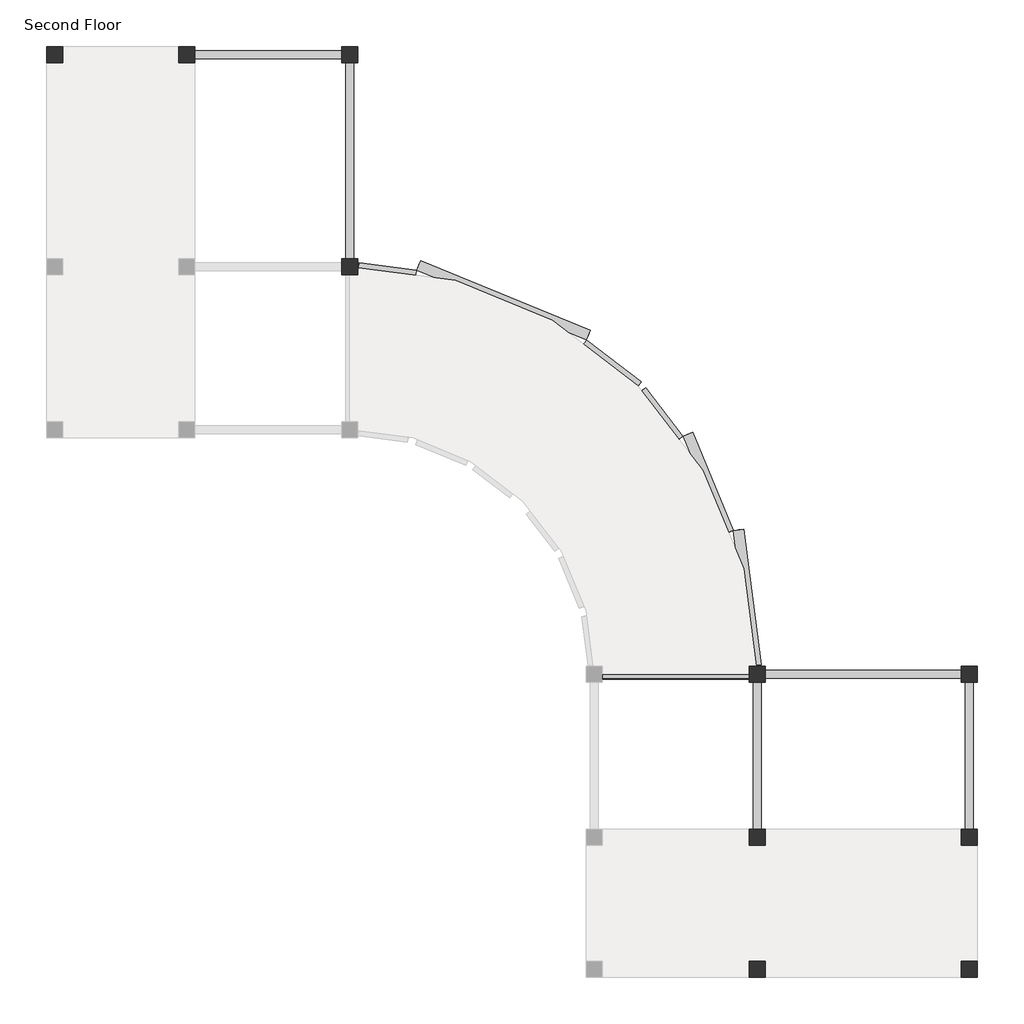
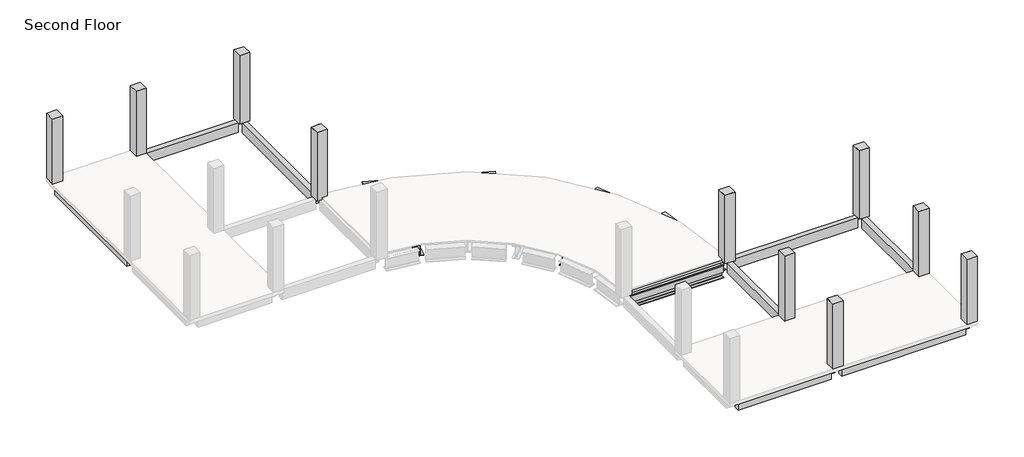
# One storey, part 2 of 2: 26 beams, 20 columns.
"""IFC4 building model written with IfcOpenShell, lengths in millimetres."""

import ifcopenshell
import ifcopenshell.guid

model = None  # the IFC model being written
_history = None  # IfcOwnerHistory: only IFC2X3 demands one
_inside = {}  # id of a spatial element -> (the spatial element, [elements in it])
_under = {}  # id of a project, library or spatial element -> (it, [spatial elements below it])
_declared = {}  # id of a project -> (the project, [libraries it declares])
_typed = {}  # id of a type object -> (the type object, [elements of that type])
_made_of = {}  # id of a material, layer set ... -> (it, [elements and type objects made of it])


def new_model(schema):
    """Start an empty IFC model of exactly this schema.

    Asked for "IFC4X3", IfcOpenShell would pick the latest addendum, in which some entities
    have other attributes; the version numbers below select the first issue.
    IFC2X3 requires an IfcOwnerHistory on every rooted entity: one is made here for all.
    """
    global model, _history
    if schema == "IFC4X3":
        model = ifcopenshell.file(schema_version=(4, 3, 0, 0))
    else:
        model = ifcopenshell.file(schema=schema)
    _inside.clear()
    _under.clear()
    _declared.clear()
    _typed.clear()
    _made_of.clear()
    _history = None
    if model.schema == "IFC2X3":
        org = make("IfcOrganization", Name="unknown")
        user = make(
            "IfcPersonAndOrganization",
            ThePerson=make("IfcPerson", FamilyName="unknown"),
            TheOrganization=org,
        )
        app = make(
            "IfcApplication",
            ApplicationDeveloper=org,
            Version="unknown",
            ApplicationFullName="unknown",
            ApplicationIdentifier="unknown",
        )
        _history = make(
            "IfcOwnerHistory",
            OwningUser=user,
            OwningApplication=app,
            ChangeAction="ADDED",
            CreationDate=0,
        )
    return model


def make(cls, **values):
    """One entity of the class cls with the attributes given. An attribute that is None is left unset."""
    return model.create_entity(
        cls, **{name: value for name, value in values.items() if value is not None}
    )


def rooted(cls, **values):
    """An entity with a GlobalId (a new one), such as an element, a storey or a relation."""
    return make(cls, GlobalId=ifcopenshell.guid.new(), OwnerHistory=_history, **values)


def si_unit(unit_type, name, prefix=None):
    """IfcSIUnit, for example si_unit("LENGTHUNIT", "METRE", prefix="MILLI")."""
    return make("IfcSIUnit", UnitType=unit_type, Prefix=prefix, Name=name)


def assignment(units):
    """IfcUnitAssignment: the units of a project."""
    return None if units is None else make("IfcUnitAssignment", Units=units)


def point(xyz):
    """IfcCartesianPoint."""
    return None if xyz is None else make("IfcCartesianPoint", Coordinates=xyz)


def direction(xyz):
    """IfcDirection."""
    return None if xyz is None else make("IfcDirection", DirectionRatios=xyz)


def frame(location, z_axis=None, x_axis=None):
    """IfcAxis2Placement3D, a coordinate frame: its origin and axes. An axis left out is left unset."""
    return make(
        "IfcAxis2Placement3D",
        Location=point(location),
        Axis=direction(z_axis),
        RefDirection=direction(x_axis),
    )


def frame_2d(location, x_axis=None):
    """IfcAxis2Placement2D, a coordinate frame in the plane: its origin and x axis."""
    return make(
        "IfcAxis2Placement2D", Location=point(location), RefDirection=direction(x_axis)
    )


def origin():
    """The frame at (0, 0, 0) with its axes left unset."""
    return frame((0.0, 0.0, 0.0))


def place(relative_to, where):
    """IfcLocalPlacement: puts the frame where relative to a parent placement (None: the world)."""
    return make(
        "IfcLocalPlacement", PlacementRelTo=relative_to, RelativePlacement=where
    )


def context(
    kind, dimensions, precision=None, world=None, true_north=None, identifier=None
):
    """IfcGeometricRepresentationContext, for example the 3D "Model" context."""
    return make(
        "IfcGeometricRepresentationContext",
        ContextIdentifier=identifier,
        ContextType=kind,
        CoordinateSpaceDimension=dimensions,
        Precision=precision,
        WorldCoordinateSystem=world,
        TrueNorth=true_north,
    )


def project(units=None, contexts=None):
    """IfcProject with its units and contexts."""
    return rooted(
        "IfcProject",
        Name="project",
        RepresentationContexts=contexts,
        UnitsInContext=assignment(units),
    )


def spatial(cls, under=None, at=None, **own):
    """A site, building, storey or space (cls), placed at a placement, below another one or the project."""
    s = rooted(cls, ObjectPlacement=at, **own)
    if under is not None:
        _under.setdefault(under.id(), (under, []))[1].append(s)
    return s


def polyline(points):
    """IfcPolyline through the points."""
    return make("IfcPolyline", Points=[point(p) for p in points])


def circle_curve(where, radius):
    """IfcCircle in the frame where."""
    return make("IfcCircle", Position=where, Radius=radius)


def trimmed(basis, trim1, trim2, sense, master):
    """IfcTrimmedCurve: the piece of a basis curve between two trims."""
    return make(
        "IfcTrimmedCurve",
        BasisCurve=basis,
        Trim1=trim1,
        Trim2=trim2,
        SenseAgreement=sense,
        MasterRepresentation=master,
    )


def segment(curve, same_sense, transition):
    """IfcCompositeCurveSegment."""
    return make(
        "IfcCompositeCurveSegment",
        Transition=transition,
        SameSense=same_sense,
        ParentCurve=curve,
    )


def composite_curve(segments, self_intersect=None):
    """IfcCompositeCurve: segments joined end to end."""
    return make("IfcCompositeCurve", Segments=segments, SelfIntersect=self_intersect)


def outline(outer, holes=None, kind="AREA"):
    """IfcArbitraryClosedProfileDef: a profile drawn as a closed curve; with holes, ...WithVoids."""
    if holes is None:
        return make("IfcArbitraryClosedProfileDef", ProfileType=kind, OuterCurve=outer)
    return make(
        "IfcArbitraryProfileDefWithVoids",
        ProfileType=kind,
        OuterCurve=outer,
        InnerCurves=holes,
    )


def extrude(swept, where, along, depth):
    """IfcExtrudedAreaSolid: the profile swept, set in the frame where, extruded along a direction by depth."""
    return make(
        "IfcExtrudedAreaSolid",
        SweptArea=swept,
        Position=where,
        ExtrudedDirection=direction(along),
        Depth=depth,
    )


def faces_of(points, faces, orient=None, outer=None):
    """IfcFace entities. A face is a list of loops; a loop is a list of indices into points, from 0.

    orient and outer hold one flag for each loop. By default every Orientation is true, the
    first loop of a face is its IfcFaceOuterBound and the others are IfcFaceBound.
    """
    made = []
    for i, loops in enumerate(faces):
        bounds = []
        for j, loop in enumerate(loops):
            is_outer = j == 0 if outer is None else outer[i][j]
            bounds.append(
                make(
                    "IfcFaceOuterBound" if is_outer else "IfcFaceBound",
                    Bound=make("IfcPolyLoop", Polygon=[points[k] for k in loop]),
                    Orientation=True if orient is None else orient[i][j],
                )
            )
        made.append(make("IfcFace", Bounds=bounds))
    return made


def faceted_brep(points, faces, orient=None, outer=None, voids=None):
    """IfcFacetedBrep: a solid bounded by flat faces; with voids (closed shells), ...WithVoids."""
    shared = [point(p) for p in points]
    hull = make("IfcClosedShell", CfsFaces=faces_of(shared, faces, orient, outer))
    if voids is None:
        return make("IfcFacetedBrep", Outer=hull)
    return make(
        "IfcFacetedBrepWithVoids",
        Outer=hull,
        Voids=[
            make(cls, CfsFaces=faces_of(shared, fs, o, b)) for cls, fs, o, b in voids
        ],
    )


def shape(context_of_items, identifier, shape_type, items):
    """IfcShapeRepresentation: the items that make up one representation, for example the "Body"."""
    return make(
        "IfcShapeRepresentation",
        ContextOfItems=context_of_items,
        RepresentationIdentifier=identifier,
        RepresentationType=shape_type,
        Items=items,
    )


def source(mapping_origin, context_of_items, identifier, shape_type, items):
    """IfcRepresentationMap: a shape defined once, which mapped items show again and again."""
    return make(
        "IfcRepresentationMap",
        MappingOrigin=mapping_origin,
        MappedRepresentation=shape(context_of_items, identifier, shape_type, items),
    )


def transform(
    local_origin,
    x_axis=None,
    y_axis=None,
    z_axis=None,
    scale=None,
    scale2=None,
    scale3=None,
    uniform=True,
):
    """IfcCartesianTransformationOperator3D, or its non-uniform kind. x_axis, y_axis, z_axis: its Axis1, 2, 3."""
    if uniform:
        return make(
            "IfcCartesianTransformationOperator3D",
            Axis1=direction(x_axis),
            Axis2=direction(y_axis),
            LocalOrigin=point(local_origin),
            Scale=scale,
            Axis3=direction(z_axis),
        )
    return make(
        "IfcCartesianTransformationOperator3DnonUniform",
        Axis1=direction(x_axis),
        Axis2=direction(y_axis),
        LocalOrigin=point(local_origin),
        Scale=scale,
        Axis3=direction(z_axis),
        Scale2=scale2,
        Scale3=scale3,
    )


def mapped(mapping_source, mapping_target):
    """IfcMappedItem: shows the shape of a source again, moved by a transform."""
    return make(
        "IfcMappedItem", MappingSource=mapping_source, MappingTarget=mapping_target
    )


def made_of(thing, what):
    """Note that an element or type object is made of a material, layer set ...; save() writes the relation."""
    if what is not None:
        _made_of.setdefault(what.id(), (what, []))[1].append(thing)
    return thing


def element(
    cls,
    number,
    at=None,
    inside=None,
    cuts=None,
    type_object=None,
    material=None,
    context=None,
    identifier="Body",
    shape_type=None,
    held_by="IfcProductDefinitionShape",
    body=None,
    shapes=None,
    **own,
):
    """One element of the class cls, such as IfcWall. Its Tag is "e" and its number.

    at: its placement. inside: the storey or other place that contains it. cuts: it is an
    opening in that element (IfcRelVoidsElement). A single representation is given by context,
    identifier, shape_type and body (its items); several are given by shapes. held_by: the class
    of the entity that holds the representations. save() writes the other relations.
    """
    e = rooted(cls, Tag="e%d" % number, ObjectPlacement=at, **own)
    if body is not None:
        shapes = [shape(context, identifier, shape_type, body)]
    if shapes is not None:
        e.Representation = make(held_by, Representations=shapes)
    if inside is not None:
        _inside.setdefault(inside.id(), (inside, []))[1].append(e)
    if cuts is not None:
        rooted(
            "IfcRelVoidsElement", RelatingBuildingElement=cuts, RelatedOpeningElement=e
        )
    if type_object is not None:
        _typed.setdefault(type_object.id(), (type_object, []))[1].append(e)
    return made_of(e, material)


def aggregate(whole, parts):
    """IfcRelAggregates: a whole, such as a stair, and the parts it consists of."""
    return rooted("IfcRelAggregates", RelatingObject=whole, RelatedObjects=parts)


def save(model, path):
    """Write the relations noted so far, then the file.

    IfcRelAggregates (storeys below a building ...), IfcRelContainedInSpatialStructure (elements
    in a storey), IfcRelDefinesByType, IfcRelAssociatesMaterial and IfcRelDeclares: one each for
    every whole, place, type object, material and project.
    """
    for whole, parts in _under.values():
        aggregate(whole, parts)
    for where, things in _inside.values():
        rooted(
            "IfcRelContainedInSpatialStructure",
            RelatedElements=things,
            RelatingStructure=where,
        )
    for kind, things in _typed.values():
        rooted("IfcRelDefinesByType", RelatedObjects=things, RelatingType=kind)
    for what, things in _made_of.values():
        rooted("IfcRelAssociatesMaterial", RelatedObjects=things, RelatingMaterial=what)
    for by, libraries in _declared.values():
        rooted("IfcRelDeclares", RelatingContext=by, RelatedDefinitions=libraries)
    model.write(path)


def w760x350_97f56e91(model_context):
    return source(origin(), model_context, "Body", "SweptSolid", [
        extrude(outline(composite_curve([segment(polyline([(192.0, -359.4), (192.0, -397.5), (-192.0, -397.5), (-192.0, -359.4), (-32.75, -359.4)]), True, "CONTINUOUS"), segment(trimmed(circle_curve(frame_2d((-32.75, -337.2)), 22.2), [point((-32.75, -359.4))], [point((-10.55, -337.2))], True, "CARTESIAN"), True, "CONTINUOUS"), segment(polyline([(-10.55, -337.2), (-10.55, 337.2)]), True, "CONTINUOUS"), segment(trimmed(circle_curve(frame_2d((-32.75, 337.2)), 22.2), [point((-10.55, 337.2))], [point((-32.75, 359.4))], True, "CARTESIAN"), True, "CONTINUOUS"), segment(polyline([(-32.75, 359.4), (-192.0, 359.4), (-192.0, 397.5), (192.0, 397.5), (192.0, 359.4), (32.75, 359.4)]), True, "CONTINUOUS"), segment(trimmed(circle_curve(frame_2d((32.75, 337.2)), 22.2), [point((32.75, 359.4))], [point((10.55, 337.2))], True, "CARTESIAN"), True, "CONTINUOUS"), segment(polyline([(10.55, 337.2), (10.55, -337.2)]), True, "CONTINUOUS"), segment(trimmed(circle_curve(frame_2d((32.75, -337.2)), 22.2), [point((10.55, -337.2))], [point((32.75, -359.4))], True, "CARTESIAN"), True, "CONTINUOUS"), segment(polyline([(32.75, -359.4), (192.0, -359.4)]), True, "CONTINUOUS")], self_intersect=False)), frame((-3447.6039591, 0.0, 0.0), z_axis=(1.0, 0.0, 0.0), x_axis=(0.0, 1.0, 0.0)), (0.0, 0.0, 1.0), 3965.7383389),
    ])


def w760x350_76114712(model_context):
    return source(origin(), model_context, "Body", "SweptSolid", [
        extrude(outline(composite_curve([segment(polyline([(192.0, -359.4), (192.0, -397.5), (-192.0, -397.5), (-192.0, -359.4), (-32.75, -359.4)]), True, "CONTINUOUS"), segment(trimmed(circle_curve(frame_2d((-32.75, -337.2)), 22.2), [point((-32.75, -359.4))], [point((-10.55, -337.2))], True, "CARTESIAN"), True, "CONTINUOUS"), segment(polyline([(-10.55, -337.2), (-10.55, 337.2)]), True, "CONTINUOUS"), segment(trimmed(circle_curve(frame_2d((-32.75, 337.2)), 22.2), [point((-10.55, 337.2))], [point((-32.75, 359.4))], True, "CARTESIAN"), True, "CONTINUOUS"), segment(polyline([(-32.75, 359.4), (-192.0, 359.4), (-192.0, 397.5), (192.0, 397.5), (192.0, 359.4), (32.75, 359.4)]), True, "CONTINUOUS"), segment(trimmed(circle_curve(frame_2d((32.75, 337.2)), 22.2), [point((32.75, 359.4))], [point((10.55, 337.2))], True, "CARTESIAN"), True, "CONTINUOUS"), segment(polyline([(10.55, 337.2), (10.55, -337.2)]), True, "CONTINUOUS"), segment(trimmed(circle_curve(frame_2d((32.75, -337.2)), 22.2), [point((10.55, -337.2))], [point((32.75, -359.4))], True, "CARTESIAN"), True, "CONTINUOUS"), segment(polyline([(32.75, -359.4), (192.0, -359.4)]), True, "CONTINUOUS")], self_intersect=False)), frame((-1757.5851295, 0.0, 0.0), z_axis=(1.0, 0.0, 0.0), x_axis=(0.0, 1.0, 0.0)), (0.0, 0.0, 1.0), 2275.7195093),
    ])


def w760x350_95a3d9c9(model_context):
    return source(origin(), model_context, "Body", "SweptSolid", [
        extrude(outline(composite_curve([segment(polyline([(192.0, -359.4), (192.0, -397.5), (-192.0, -397.5), (-192.0, -359.4), (-32.75, -359.4)]), True, "CONTINUOUS"), segment(trimmed(circle_curve(frame_2d((-32.75, -337.2)), 22.2), [point((-32.75, -359.4))], [point((-10.55, -337.2))], True, "CARTESIAN"), True, "CONTINUOUS"), segment(polyline([(-10.55, -337.2), (-10.55, 337.2)]), True, "CONTINUOUS"), segment(trimmed(circle_curve(frame_2d((-32.75, 337.2)), 22.2), [point((-10.55, 337.2))], [point((-32.75, 359.4))], True, "CARTESIAN"), True, "CONTINUOUS"), segment(polyline([(-32.75, 359.4), (-192.0, 359.4), (-192.0, 397.5), (192.0, 397.5), (192.0, 359.4), (32.75, 359.4)]), True, "CONTINUOUS"), segment(trimmed(circle_curve(frame_2d((32.75, 337.2)), 22.2), [point((32.75, 359.4))], [point((10.55, 337.2))], True, "CARTESIAN"), True, "CONTINUOUS"), segment(polyline([(10.55, 337.2), (10.55, -337.2)]), True, "CONTINUOUS"), segment(trimmed(circle_curve(frame_2d((32.75, -337.2)), 22.2), [point((10.55, -337.2))], [point((32.75, -359.4))], True, "CARTESIAN"), True, "CONTINUOUS"), segment(polyline([(32.75, -359.4), (192.0, -359.4)]), True, "CONTINUOUS")], self_intersect=False)), frame((-1648.6532017, 0.0, 0.0), z_axis=(1.0, 0.0, 0.0), x_axis=(0.0, 1.0, 0.0)), (0.0, 0.0, 1.0), 2147.5829882),
    ])


def w760x350_c93c339d(model_context):
    return source(origin(), model_context, "Body", "SweptSolid", [
        extrude(outline(composite_curve([segment(polyline([(192.0, -359.4), (192.0, -397.5), (-192.0, -397.5), (-192.0, -359.4), (-32.75, -359.4)]), True, "CONTINUOUS"), segment(trimmed(circle_curve(frame_2d((-32.75, -337.2)), 22.2), [point((-32.75, -359.4))], [point((-10.55, -337.2))], True, "CARTESIAN"), True, "CONTINUOUS"), segment(polyline([(-10.55, -337.2), (-10.55, 337.2)]), True, "CONTINUOUS"), segment(trimmed(circle_curve(frame_2d((-32.75, 337.2)), 22.2), [point((-10.55, 337.2))], [point((-32.75, 359.4))], True, "CARTESIAN"), True, "CONTINUOUS"), segment(polyline([(-32.75, 359.4), (-192.0, 359.4), (-192.0, 397.5), (192.0, 397.5), (192.0, 359.4), (32.75, 359.4)]), True, "CONTINUOUS"), segment(trimmed(circle_curve(frame_2d((32.75, 337.2)), 22.2), [point((32.75, 359.4))], [point((10.55, 337.2))], True, "CARTESIAN"), True, "CONTINUOUS"), segment(polyline([(10.55, 337.2), (10.55, -337.2)]), True, "CONTINUOUS"), segment(trimmed(circle_curve(frame_2d((32.75, -337.2)), 22.2), [point((10.55, -337.2))], [point((32.75, -359.4))], True, "CARTESIAN"), True, "CONTINUOUS"), segment(polyline([(32.75, -359.4), (192.0, -359.4)]), True, "CONTINUOUS")], self_intersect=False)), frame((-3436.6555898, 0.0, 0.0), z_axis=(1.0, 0.0, 0.0), x_axis=(0.0, 1.0, 0.0)), (0.0, 0.0, 1.0), 6854.1065863),
    ])


def w760x350_c870c244(model_context):
    return source(origin(), model_context, "Body", "SweptSolid", [
        extrude(outline(composite_curve([segment(polyline([(192.0, -359.4), (192.0, -397.5), (-192.0, -397.5), (-192.0, -359.4), (-32.75, -359.4)]), True, "CONTINUOUS"), segment(trimmed(circle_curve(frame_2d((-32.75, -337.2)), 22.2), [point((-32.75, -359.4))], [point((-10.55, -337.2))], True, "CARTESIAN"), True, "CONTINUOUS"), segment(polyline([(-10.55, -337.2), (-10.55, 337.2)]), True, "CONTINUOUS"), segment(trimmed(circle_curve(frame_2d((-32.75, 337.2)), 22.2), [point((-10.55, 337.2))], [point((-32.75, 359.4))], True, "CARTESIAN"), True, "CONTINUOUS"), segment(polyline([(-32.75, 359.4), (-192.0, 359.4), (-192.0, 397.5), (192.0, 397.5), (192.0, 359.4), (32.75, 359.4)]), True, "CONTINUOUS"), segment(trimmed(circle_curve(frame_2d((32.75, 337.2)), 22.2), [point((32.75, 359.4))], [point((10.55, 337.2))], True, "CARTESIAN"), True, "CONTINUOUS"), segment(polyline([(10.55, 337.2), (10.55, -337.2)]), True, "CONTINUOUS"), segment(trimmed(circle_curve(frame_2d((32.75, -337.2)), 22.2), [point((10.55, -337.2))], [point((32.75, -359.4))], True, "CARTESIAN"), True, "CONTINUOUS"), segment(polyline([(32.75, -359.4), (192.0, -359.4)]), True, "CONTINUOUS")], self_intersect=False)), frame((-548.9152104, 0.0, 0.0), z_axis=(1.0, 0.0, 0.0), x_axis=(0.0, 1.0, 0.0)), (0.0, 0.0, 1.0), 2568.9152104),
    ])


def w760x350_85be410d(model_context):
    return source(origin(), model_context, "Body", "SweptSolid", [
        extrude(outline(composite_curve([segment(polyline([(192.0, -359.4), (192.0, -397.5), (-192.0, -397.5), (-192.0, -359.4), (-32.75, -359.4)]), True, "CONTINUOUS"), segment(trimmed(circle_curve(frame_2d((-32.75, -337.2)), 22.2), [point((-32.75, -359.4))], [point((-10.55, -337.2))], True, "CARTESIAN"), True, "CONTINUOUS"), segment(polyline([(-10.55, -337.2), (-10.55, 337.2)]), True, "CONTINUOUS"), segment(trimmed(circle_curve(frame_2d((-32.75, 337.2)), 22.2), [point((-10.55, 337.2))], [point((-32.75, 359.4))], True, "CARTESIAN"), True, "CONTINUOUS"), segment(polyline([(-32.75, 359.4), (-192.0, 359.4), (-192.0, 397.5), (192.0, 397.5), (192.0, 359.4), (32.75, 359.4)]), True, "CONTINUOUS"), segment(trimmed(circle_curve(frame_2d((32.75, 337.2)), 22.2), [point((32.75, 359.4))], [point((10.55, 337.2))], True, "CARTESIAN"), True, "CONTINUOUS"), segment(polyline([(10.55, 337.2), (10.55, -337.2)]), True, "CONTINUOUS"), segment(trimmed(circle_curve(frame_2d((32.75, -337.2)), 22.2), [point((10.55, -337.2))], [point((32.75, -359.4))], True, "CARTESIAN"), True, "CONTINUOUS"), segment(polyline([(32.75, -359.4), (192.0, -359.4)]), True, "CONTINUOUS")], self_intersect=False)), frame((-2605.8, 0.0, 0.0), z_axis=(1.0, 0.0, 0.0), x_axis=(0.0, 1.0, 0.0)), (0.0, 0.0, 1.0), 5422.16596),
    ])


def w760x350_f2c5e80b(model_context):
    return source(origin(), model_context, "Body", "SweptSolid", [
        extrude(outline(composite_curve([segment(polyline([(192.0, -359.4), (192.0, -397.5), (-192.0, -397.5), (-192.0, -359.4), (-32.75, -359.4)]), True, "CONTINUOUS"), segment(trimmed(circle_curve(frame_2d((-32.75, -337.2)), 22.2), [point((-32.75, -359.4))], [point((-10.55, -337.2))], True, "CARTESIAN"), True, "CONTINUOUS"), segment(polyline([(-10.55, -337.2), (-10.55, 337.2)]), True, "CONTINUOUS"), segment(trimmed(circle_curve(frame_2d((-32.75, 337.2)), 22.2), [point((-10.55, 337.2))], [point((-32.75, 359.4))], True, "CARTESIAN"), True, "CONTINUOUS"), segment(polyline([(-32.75, 359.4), (-192.0, 359.4), (-192.0, 397.5), (192.0, 397.5), (192.0, 359.4), (32.75, 359.4)]), True, "CONTINUOUS"), segment(trimmed(circle_curve(frame_2d((32.75, 337.2)), 22.2), [point((32.75, 359.4))], [point((10.55, 337.2))], True, "CARTESIAN"), True, "CONTINUOUS"), segment(polyline([(10.55, 337.2), (10.55, -337.2)]), True, "CONTINUOUS"), segment(trimmed(circle_curve(frame_2d((32.75, -337.2)), 22.2), [point((10.55, -337.2))], [point((32.75, -359.4))], True, "CARTESIAN"), True, "CONTINUOUS"), segment(polyline([(32.75, -359.4), (192.0, -359.4)]), True, "CONTINUOUS")], self_intersect=False)), frame((-3447.6039591, 0.0, 0.0), z_axis=(1.0, 0.0, 0.0), x_axis=(0.0, 1.0, 0.0)), (0.0, 0.0, 1.0), 5096.2571608),
    ])


def w760x350_2a258063(model_context):
    return source(origin(), model_context, "Body", "SweptSolid", [
        extrude(outline(composite_curve([segment(polyline([(192.0, -359.4), (192.0, -397.5), (-192.0, -397.5), (-192.0, -359.4), (-32.75, -359.4)]), True, "CONTINUOUS"), segment(trimmed(circle_curve(frame_2d((-32.75, -337.2)), 22.2), [point((-32.75, -359.4))], [point((-10.55, -337.2))], True, "CARTESIAN"), True, "CONTINUOUS"), segment(polyline([(-10.55, -337.2), (-10.55, 337.2)]), True, "CONTINUOUS"), segment(trimmed(circle_curve(frame_2d((-32.75, 337.2)), 22.2), [point((-10.55, 337.2))], [point((-32.75, 359.4))], True, "CARTESIAN"), True, "CONTINUOUS"), segment(polyline([(-32.75, 359.4), (-192.0, 359.4), (-192.0, 397.5), (192.0, 397.5), (192.0, 359.4), (32.75, 359.4)]), True, "CONTINUOUS"), segment(trimmed(circle_curve(frame_2d((32.75, 337.2)), 22.2), [point((32.75, 359.4))], [point((10.55, 337.2))], True, "CARTESIAN"), True, "CONTINUOUS"), segment(polyline([(10.55, 337.2), (10.55, -337.2)]), True, "CONTINUOUS"), segment(trimmed(circle_curve(frame_2d((32.75, -337.2)), 22.2), [point((10.55, -337.2))], [point((32.75, -359.4))], True, "CARTESIAN"), True, "CONTINUOUS"), segment(polyline([(32.75, -359.4), (192.0, -359.4)]), True, "CONTINUOUS")], self_intersect=False)), frame((-2735.3, 0.0, 0.0), z_axis=(1.0, 0.0, 0.0), x_axis=(0.0, 1.0, 0.0)), (0.0, 0.0, 1.0), 5470.6),
    ])


def w760x350_6f162b3c(model_context):
    return source(origin(), model_context, "Body", "SweptSolid", [
        extrude(outline(composite_curve([segment(polyline([(192.0, -359.4), (192.0, -397.5), (-192.0, -397.5), (-192.0, -359.4), (-32.75, -359.4)]), True, "CONTINUOUS"), segment(trimmed(circle_curve(frame_2d((-32.75, -337.2)), 22.2), [point((-32.75, -359.4))], [point((-10.55, -337.2))], True, "CARTESIAN"), True, "CONTINUOUS"), segment(polyline([(-10.55, -337.2), (-10.55, 337.2)]), True, "CONTINUOUS"), segment(trimmed(circle_curve(frame_2d((-32.75, 337.2)), 22.2), [point((-10.55, 337.2))], [point((-32.75, 359.4))], True, "CARTESIAN"), True, "CONTINUOUS"), segment(polyline([(-32.75, 359.4), (-192.0, 359.4), (-192.0, 397.5), (192.0, 397.5), (192.0, 359.4), (32.75, 359.4)]), True, "CONTINUOUS"), segment(trimmed(circle_curve(frame_2d((32.75, 337.2)), 22.2), [point((32.75, 359.4))], [point((10.55, 337.2))], True, "CARTESIAN"), True, "CONTINUOUS"), segment(polyline([(10.55, 337.2), (10.55, -337.2)]), True, "CONTINUOUS"), segment(trimmed(circle_curve(frame_2d((32.75, -337.2)), 22.2), [point((10.55, -337.2))], [point((32.75, -359.4))], True, "CARTESIAN"), True, "CONTINUOUS"), segment(polyline([(32.75, -359.4), (192.0, -359.4)]), True, "CONTINUOUS")], self_intersect=False)), frame((-37.2999994, 0.0, 0.0), z_axis=(1.0, 0.0, 0.0), x_axis=(0.0, 1.0, 0.0)), (0.0, 0.0, 1.0), 74.5999988),
    ])


model = new_model("IFC4")

# Units and contexts
model_context = context("Model", 3, world=origin())
ifc_project = project(units=[si_unit("LENGTHUNIT", "METRE", prefix="MILLI")], contexts=[model_context])

# Site, building, storey
site = spatial("IfcSite", under=ifc_project)
building = spatial("IfcBuilding", under=site)
storey = spatial("IfcBuildingStorey", under=building, Name="Second Floor", Elevation=3048.0)

# Beams
placement = place(None, origin())
element("IfcBeam", 1, ObjectType="M_Concrete-Rectangular Beam : 300 x 600mm", at=placement, inside=storey, context=model_context, shape_type="SweptSolid", body=[
    extrude(outline(polyline([(-16304.9035319, 4112.1636035), (-16304.9035319, 4412.1636035), (-10808.9035319, 4412.1636035), (-10808.9035319, 4112.1636035), (-16304.9035319, 4112.1636035)])), frame((0.0, 0.0, 2448.0), z_axis=(0.0, 0.0, 1.0), x_axis=(1.0, 0.0, 0.0)), (0.0, 0.0, 1.0), 600.0),
])
element("IfcBeam", 2, ObjectType="M_Concrete-Rectangular Beam : 300 x 600mm", at=placement, inside=storey, context=model_context, shape_type="SweptSolid", body=[
    extrude(outline(polyline([(-21244.300634, 4112.1636035), (-21244.300634, 4412.1636035), (-16904.9035319, 4412.1636035), (-16904.9035319, 4112.1636035), (-21244.300634, 4112.1636035)])), frame((0.0, 0.0, 2448.0), z_axis=(0.0, 0.0, 1.0), x_axis=(1.0, 0.0, 0.0)), (0.0, 0.0, 1.0), 510.0),
])
element("IfcBeam", 3, ObjectType="M_Concrete-Rectangular Beam : 300 x 600mm", at=placement, inside=storey, context=model_context, shape_type="SweptSolid", body=[
    extrude(outline(polyline([(-21394.300634, -3362.8363965), (-21694.300634, -3362.8363965), (-21694.300634, 3962.1636035), (-21394.300634, 3962.1636035), (-21394.300634, -3362.8363965)])), frame((0.0, 0.0, 2448.0), z_axis=(0.0, 0.0, 1.0), x_axis=(1.0, 0.0, 0.0)), (0.0, 0.0, 1.0), 510.0),
])
element("IfcBeam", 4, ObjectType="M_Concrete-Rectangular Beam : 300 x 600mm", at=placement, inside=storey, context=model_context, shape_type="SweptSolid", body=[
    extrude(outline(polyline([(-16454.9035319, -3362.8363965), (-16754.9035319, -3362.8363965), (-16754.9035319, 3962.1636035), (-16454.9035319, 3962.1636035), (-16454.9035319, -3362.8363965)])), frame((0.0, 0.0, 2448.0), z_axis=(0.0, 0.0, 1.0), x_axis=(1.0, 0.0, 0.0)), (0.0, 0.0, 1.0), 510.0),
])
element("IfcBeam", 5, ObjectType="M_Concrete-Rectangular Beam : 300 x 600mm", at=placement, inside=storey, context=model_context, shape_type="SweptSolid", body=[
    extrude(outline(polyline([(-10358.9035319, -3362.8363965), (-10658.9035319, -3362.8363965), (-10658.9035319, 3962.1636035), (-10358.9035319, 3962.1636035), (-10358.9035319, -3362.8363965)])), frame((0.0, 0.0, 2448.0), z_axis=(0.0, 0.0, 1.0), x_axis=(1.0, 0.0, 0.0)), (0.0, 0.0, 1.0), 600.0),
])
element("IfcBeam", 6, ObjectType="M_Concrete-Rectangular Beam : 300 x 600mm", at=placement, inside=storey, context=model_context, shape_type="SweptSolid", body=[
    extrude(outline(polyline([(12806.0964681, -24698.8363965), (12506.0964681, -24698.8363965), (12506.0964681, -19202.8363965), (12806.0964681, -19202.8363965), (12806.0964681, -24698.8363965)])), frame((0.0, 0.0, 2448.0), z_axis=(0.0, 0.0, 1.0), x_axis=(1.0, 0.0, 0.0)), (0.0, 0.0, 1.0), 600.0),
])
element("IfcBeam", 7, ObjectType="M_Concrete-Rectangular Beam : 300 x 600mm", at=placement, inside=storey, context=model_context, shape_type="SweptSolid", body=[
    extrude(outline(polyline([(12806.0964681, -29638.2334986), (12506.0964681, -29638.2334986), (12506.0964681, -25298.8363965), (12806.0964681, -25298.8363965), (12806.0964681, -29638.2334986)])), frame((0.0, 0.0, 2448.0), z_axis=(0.0, 0.0, 1.0), x_axis=(1.0, 0.0, 0.0)), (0.0, 0.0, 1.0), 510.0),
])
element("IfcBeam", 8, ObjectType="M_Concrete-Rectangular Beam : 300 x 600mm", at=placement, inside=storey, context=model_context, shape_type="SweptSolid", body=[
    extrude(outline(polyline([(4881.0964681, -24698.8363965), (4581.0964681, -24698.8363965), (4581.0964681, -19202.8363965), (4881.0964681, -19202.8363965), (4881.0964681, -24698.8363965)])), frame((0.0, 0.0, 2448.0), z_axis=(0.0, 0.0, 1.0), x_axis=(1.0, 0.0, 0.0)), (0.0, 0.0, 1.0), 600.0),
])
element("IfcBeam", 9, ObjectType="M_Concrete-Rectangular Beam : 300 x 600mm", at=placement, inside=storey, context=model_context, shape_type="SweptSolid", body=[
    extrude(outline(polyline([(4881.0964681, -29638.2334986), (4581.0964681, -29638.2334986), (4581.0964681, -25298.8363965), (4881.0964681, -25298.8363965), (4881.0964681, -29638.2334986)])), frame((0.0, 0.0, 2448.0), z_axis=(0.0, 0.0, 1.0), x_axis=(1.0, 0.0, 0.0)), (0.0, 0.0, 1.0), 510.0),
])
element("IfcBeam", 10, ObjectType="M_Concrete-Rectangular Beam : 300 x 600mm", at=placement, inside=storey, context=model_context, shape_type="SweptSolid", body=[
    extrude(outline(polyline([(5031.0964681, -30088.2334986), (5031.0964681, -29788.2334986), (12356.0964681, -29788.2334986), (12356.0964681, -30088.2334986), (5031.0964681, -30088.2334986)])), frame((0.0, 0.0, 2448.0), z_axis=(0.0, 0.0, 1.0), x_axis=(1.0, 0.0, 0.0)), (0.0, 0.0, 1.0), 510.0),
])
element("IfcBeam", 11, ObjectType="M_Concrete-Rectangular Beam : 300 x 600mm", at=placement, inside=storey, context=model_context, shape_type="SweptSolid", body=[
    extrude(outline(polyline([(-1064.9035319, -30088.2334986), (-1064.9035319, -29788.2334986), (4431.0964681, -29788.2334986), (4431.0964681, -30088.2334986), (-1064.9035319, -30088.2334986)])), frame((0.0, 0.0, 2448.0), z_axis=(0.0, 0.0, 1.0), x_axis=(1.0, 0.0, 0.0)), (0.0, 0.0, 1.0), 510.0),
])
element("IfcBeam", 12, ObjectType="M_Concrete-Rectangular Beam : 300 x 600mm", at=placement, inside=storey, context=model_context, shape_type="SweptSolid", body=[
    extrude(outline(polyline([(-1064.9035319, -25148.8363965), (-1064.9035319, -24848.8363965), (4431.0964681, -24848.8363965), (4431.0964681, -25148.8363965), (-1064.9035319, -25148.8363965)])), frame((0.0, 0.0, 2448.0), z_axis=(0.0, 0.0, 1.0), x_axis=(1.0, 0.0, 0.0)), (0.0, 0.0, 1.0), 510.0),
])
element("IfcBeam", 13, ObjectType="M_Concrete-Rectangular Beam : 300 x 600mm", at=placement, inside=storey, context=model_context, shape_type="SweptSolid", body=[
    extrude(outline(polyline([(5031.0964681, -25148.8363965), (5031.0964681, -24848.8363965), (12356.0964681, -24848.8363965), (12356.0964681, -25148.8363965), (5031.0964681, -25148.8363965)])), frame((0.0, 0.0, 2448.0), z_axis=(0.0, 0.0, 1.0), x_axis=(1.0, 0.0, 0.0)), (0.0, 0.0, 1.0), 510.0),
])
element("IfcBeam", 14, ObjectType="M_Concrete-Rectangular Beam : 300 x 600mm", at=placement, inside=storey, context=model_context, shape_type="SweptSolid", body=[
    extrude(outline(polyline([(-1064.9035319, -19052.8363965), (-1064.9035319, -18752.8363965), (4431.0964681, -18752.8363965), (4431.0964681, -19052.8363965), (-1064.9035319, -19052.8363965)])), frame((0.0, 0.0, 2448.0), z_axis=(0.0, 0.0, 1.0), x_axis=(1.0, 0.0, 0.0)), (0.0, 0.0, 1.0), 600.0),
])
element("IfcBeam", 15, ObjectType="M_Concrete-Rectangular Beam : 300 x 600mm", at=placement, inside=storey, context=model_context, shape_type="SweptSolid", body=[
    extrude(outline(polyline([(5031.0964681, -19052.8363965), (5031.0964681, -18752.8363965), (12356.0964681, -18752.8363965), (12356.0964681, -19052.8363965), (5031.0964681, -19052.8363965)])), frame((0.0, 0.0, 2448.0), z_axis=(0.0, 0.0, 1.0), x_axis=(1.0, 0.0, 0.0)), (0.0, 0.0, 1.0), 600.0),
])
w760x350_shape = w760x350_97f56e91(model_context)
element("IfcBeam", 16, ObjectType="M_W-Wide Flange : W760X350", at=placement, inside=storey, context=model_context, shape_type="MappedRepresentation", body=[
    mapped(w760x350_shape, transform((3450.5648413, -13120.6352728, 2523.5), x_axis=(0.3826834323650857, -0.9238795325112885, 0.0), y_axis=(0.9238795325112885, 0.3826834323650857, 0.0), z_axis=(0.0, 0.0, 1.0))),
])
w760x350_2_shape = w760x350_76114712(model_context)
element("IfcBeam", 17, ObjectType="M_W-Wide Flange : W760X350", at=placement, inside=storey, context=model_context, shape_type="MappedRepresentation", body=[
    mapped(w760x350_2_shape, transform((1478.3637176, -9704.6827239, 2523.5), x_axis=(0.6087614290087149, -0.7933533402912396, 0.0), y_axis=(0.7933533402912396, 0.6087614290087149, 0.0), z_axis=(0.0, 0.0, 1.0))),
])
w760x350_3_shape = w760x350_95a3d9c9(model_context)
element("IfcBeam", 18, ObjectType="M_W-Wide Flange : W760X350", at=placement, inside=storey, context=model_context, shape_type="MappedRepresentation", body=[
    mapped(w760x350_3_shape, transform((-8536.7024082, -3922.4816002, 2523.5), x_axis=(0.9914448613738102, -0.1305261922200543, 0.0), y_axis=(0.1305261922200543, 0.9914448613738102, 0.0), z_axis=(0.0, 0.0, 1.0))),
])
w760x350_4_shape = w760x350_c93c339d(model_context)
element("IfcBeam", 19, ObjectType="M_W-Wide Flange : W760X350", at=placement, inside=storey, context=model_context, shape_type="MappedRepresentation", body=[
    mapped(w760x350_4_shape, transform((-4752.0478576, -4925.7348849, 2523.5), x_axis=(0.9251619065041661, -0.37957271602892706, 0.0), y_axis=(0.37957271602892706, 0.9251619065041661, 0.0), z_axis=(0.0, 0.0, 1.0))),
])
w760x350_5_shape = w760x350_c870c244(model_context)
element("IfcBeam", 20, ObjectType="M_W-Wide Flange : W760X350", at=placement, inside=storey, context=model_context, shape_type="MappedRepresentation", body=[
    mapped(w760x350_5_shape, transform((-1332.8922259, -6893.6419593, 2523.5), x_axis=(0.7953971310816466, -0.6060886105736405, 0.0), y_axis=(0.6060886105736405, 0.7953971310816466, 0.0), z_axis=(0.0, 0.0, 1.0))),
])
w760x350_6_shape = w760x350_85be410d(model_context)
element("IfcBeam", 21, ObjectType="M_W-Wide Flange : W760X350", at=placement, inside=storey, context=model_context, shape_type="MappedRepresentation", body=[
    mapped(w760x350_6_shape, transform((-7353.381734, -7126.2687224, 2523.5), x_axis=(0.258819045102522, 0.965925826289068, 0.0), y_axis=(-0.965925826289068, 0.258819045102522, 0.0), z_axis=(0.0, 0.0, 1.0))),
])
element("IfcBeam", 22, ObjectType="M_W-Wide Flange : W760X350", at=placement, inside=storey, context=model_context, shape_type="MappedRepresentation", body=[
    mapped(w760x350_6_shape, transform((49.6781911, -12806.8363965, 2523.5), x_axis=(0.8660254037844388, 0.49999999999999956, 0.0), y_axis=(-0.49999999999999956, 0.8660254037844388, 0.0), z_axis=(0.0, 0.0, 1.0))),
])
element("IfcBeam", 23, ObjectType="M_W-Wide Flange : W760X350", at=placement, inside=storey, context=model_context, shape_type="MappedRepresentation", body=[
    mapped(w760x350_6_shape, transform((1267.6641423, -15747.3145986, 2523.5), x_axis=(0.9659258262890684, 0.2588190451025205, 0.0), y_axis=(-0.2588190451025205, 0.9659258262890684, 0.0), z_axis=(0.0, 0.0, 1.0))),
])
w760x350_7_shape = w760x350_f2c5e80b(model_context)
element("IfcBeam", 24, ObjectType="M_W-Wide Flange : W760X350", at=placement, inside=storey, context=model_context, shape_type="MappedRepresentation", body=[
    mapped(w760x350_7_shape, transform((4471.4512645, -16930.6352728, 2523.5), x_axis=(0.1305261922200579, -0.9914448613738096, 0.0), y_axis=(0.9914448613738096, 0.1305261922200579, 0.0), z_axis=(0.0, 0.0, 1.0))),
])
w760x350_8_shape = w760x350_2a258063(model_context)
element("IfcBeam", 25, ObjectType="M_W-Wide Flange : W760X350", at=placement, inside=storey, context=model_context, shape_type="MappedRepresentation", body=[
    mapped(w760x350_8_shape, transform((1683.0964681, -18902.8363965, 2523.5), x_axis=(-1.0, 0.0, 0.0), y_axis=(0.0, -1.0, 0.0), z_axis=(0.0, 0.0, 1.0))),
])
w760x350_9_shape = w760x350_6f162b3c(model_context)
element("IfcBeam", 26, ObjectType="M_W-Wide Flange : W760X350", at=placement, inside=storey, context=model_context, shape_type="MappedRepresentation", body=[
    mapped(w760x350_9_shape, transform((-2853.5481928, -5739.9645819, 2523.5), x_axis=(0.7071067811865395, -0.7071067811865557, 0.0), y_axis=(0.7071067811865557, 0.7071067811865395, 0.0), z_axis=(0.0, 0.0, 1.0))),
])

# Columns
element("IfcColumn", 27, ObjectType="M_Concrete-Rectangular-Column : 600 x 600mm", at=placement, inside=storey, context=model_context, shape_type="SweptSolid", body=[
    extrude(outline(polyline([(-21844.300634, 3962.1636035), (-21844.300634, 4562.1636035), (-21244.300634, 4562.1636035), (-21244.300634, 3962.1636035), (-21844.300634, 3962.1636035)])), frame((0.0, 0.0, 3168.0), z_axis=(0.0, 0.0, 1.0), x_axis=(1.0, 0.0, 0.0)), (0.0, 0.0, 1.0), 4057.0),
])
element("IfcColumn", 28, ObjectType="M_Concrete-Rectangular-Column : 600 x 600mm", at=placement, inside=storey, context=model_context, shape_type="SweptSolid", body=[
    extrude(outline(polyline([(-16904.9035319, 3962.1636035), (-16904.9035319, 4562.1636035), (-16304.9035319, 4562.1636035), (-16304.9035319, 3962.1636035), (-16904.9035319, 3962.1636035)])), frame((0.0, 0.0, 3168.0), z_axis=(0.0, 0.0, 1.0), x_axis=(1.0, 0.0, 0.0)), (0.0, 0.0, 1.0), 4057.0),
])
element("IfcColumn", 29, ObjectType="M_Concrete-Rectangular-Column : 600 x 600mm", at=placement, inside=storey, context=model_context, shape_type="Brep", body=[
    faceted_brep([(-10808.9035319, -3962.8363965, 3048.0), (-10808.9035319, -3362.8363965, 3048.0), (-10208.9035319, -3362.8363965, 3048.0), (-10208.9035319, -3962.8363965, 3048.0), (-10808.9035319, -3962.8363965, 7315.0), (-10808.9035319, -3362.8363965, 7315.0), (-10208.9035319, -3362.8363965, 7315.0), (-10208.9035319, -3962.8363965, 7315.0), (-10208.9035319, -3962.8363965, 3168.0), (-10208.9035319, -3702.3321458, 3168.0), (-10208.9035319, -3702.3321458, 3093.0), (-10208.9035319, -3962.8363965, 3093.0), (-10508.9035319, -3962.8363965, 3093.0), (-10508.9035319, -3962.8363965, 3168.0), (-10508.9035319, -3662.8363965, 3093.0), (-10508.9035319, -3662.8363965, 3168.0)], [[[0, 1, 2, 3]], [[1, 0, 4, 5]], [[2, 1, 5, 6]], [[3, 2, 6, 7, 8, 9, 10, 11]], [[0, 3, 11, 12, 13, 8, 7, 4]], [[5, 4, 7, 6]], [[14, 12, 11, 10]], [[15, 9, 8, 13]], [[15, 14, 10, 9]], [[14, 15, 13, 12]]]),
])
element("IfcColumn", 30, ObjectType="M_Concrete-Rectangular-Column : 600 x 600mm", at=placement, inside=storey, context=model_context, shape_type="SweptSolid", body=[
    extrude(outline(polyline([(-10808.9035319, 3962.1636035), (-10808.9035319, 4562.1636035), (-10208.9035319, 4562.1636035), (-10208.9035319, 3962.1636035), (-10808.9035319, 3962.1636035)])), frame((0.0, 0.0, 3048.0), z_axis=(0.0, 0.0, 1.0), x_axis=(1.0, 0.0, 0.0)), (0.0, 0.0, 1.0), 4267.0),
])
element("IfcColumn", 31, ObjectType="M_Concrete-Rectangular-Column : 600 x 600mm", at=placement, inside=storey, context=model_context, shape_type="Brep", body=[
    faceted_brep([(-21844.300634, 3962.1636035, 7225.0), (-21844.300634, 4562.1636035, 7225.0), (-21844.300634, 4562.1636035, 3168.0), (-21844.300634, 3962.1636035, 3168.0), (-21244.300634, 4562.1636035, 7225.0), (-21244.300634, 4562.1636035, 3168.0), (-21244.300634, 4412.1636035, 7225.0), (-21244.300634, 4112.1636035, 7225.0), (-21244.300634, 3962.1636035, 7225.0), (-21244.300634, 3962.1636035, 3168.0), (-21394.300634, 3962.1636035, 7225.0), (-21694.300634, 3962.1636035, 7225.0)], [[[0, 1, 2, 3]], [[1, 4, 5, 2]], [[4, 6, 7, 8, 9, 5]], [[8, 10, 11, 0, 3, 9]], [[1, 0, 11, 10, 8, 7, 6, 4]], [[3, 2, 5, 9]]]),
])
element("IfcColumn", 32, ObjectType="M_Concrete-Rectangular-Column : 600 x 600mm", at=placement, inside=storey, context=model_context, shape_type="Brep", body=[
    faceted_brep([(-16904.9035319, 3962.1636035, 7225.0), (-16904.9035319, 4112.1636035, 7225.0), (-16904.9035319, 4412.1636035, 7225.0), (-16904.9035319, 4562.1636035, 7225.0), (-16904.9035319, 4562.1636035, 3168.0), (-16904.9035319, 3962.1636035, 3168.0), (-16304.9035319, 4562.1636035, 7225.0), (-16304.9035319, 4562.1636035, 3168.0), (-16304.9035319, 3962.1636035, 7225.0), (-16304.9035319, 3962.1636035, 3168.0), (-16454.9035319, 3962.1636035, 7225.0), (-16754.9035319, 3962.1636035, 7225.0)], [[[0, 1, 2, 3, 4, 5]], [[3, 6, 7, 4]], [[6, 8, 9, 7]], [[8, 10, 11, 0, 5, 9]], [[3, 2, 1, 0, 11, 10, 8, 6]], [[5, 4, 7, 9]]]),
])
element("IfcColumn", 33, ObjectType="M_Concrete-Rectangular-Column : 600 x 600mm", at=placement, inside=storey, context=model_context, shape_type="Brep", body=[
    faceted_brep([(-10808.9035319, -3962.8363965, 3048.0), (-10808.9035319, -3362.8363965, 3048.0), (-10208.9035319, -3362.8363965, 3048.0), (-10208.9035319, -3962.8363965, 3048.0), (-10808.9035319, -3962.8363965, 7315.0), (-10808.9035319, -3812.8363965, 7315.0), (-10808.9035319, -3512.8363965, 7315.0), (-10808.9035319, -3362.8363965, 7315.0), (-10658.9035319, -3362.8363965, 7315.0), (-10358.9035319, -3362.8363965, 7315.0), (-10208.9035319, -3362.8363965, 7315.0), (-10208.9035319, -3962.8363965, 7315.0), (-10208.9035319, -3962.8363965, 3168.0), (-10208.9035319, -3702.3321458, 3168.0), (-10208.9035319, -3702.3321458, 3093.0), (-10208.9035319, -3962.8363965, 3093.0), (-10508.9035319, -3962.8363965, 3093.0), (-10508.9035319, -3962.8363965, 3168.0), (-10358.9035319, -3962.8363965, 7315.0), (-10658.9035319, -3962.8363965, 7315.0), (-10508.9035319, -3662.8363965, 3093.0), (-10508.9035319, -3662.8363965, 3168.0)], [[[0, 1, 2, 3]], [[1, 0, 4, 5, 6, 7]], [[2, 1, 7, 8, 9, 10]], [[3, 2, 10, 11, 12, 13, 14, 15]], [[0, 3, 15, 16, 17, 12, 11, 18, 19, 4]], [[7, 6, 5, 4, 19, 18, 11, 10, 9, 8]], [[20, 16, 15, 14]], [[21, 13, 12, 17]], [[21, 20, 14, 13]], [[20, 21, 17, 16]]]),
])
element("IfcColumn", 34, ObjectType="M_Concrete-Rectangular-Column : 600 x 600mm", at=placement, inside=storey, context=model_context, shape_type="Brep", body=[
    faceted_brep([(-10808.9035319, 3962.1636035, 3048.0), (-10808.9035319, 4562.1636035, 3048.0), (-10208.9035319, 4562.1636035, 3048.0), (-10208.9035319, 3962.1636035, 3048.0), (-10808.9035319, 3962.1636035, 7315.0), (-10808.9035319, 4112.1636035, 7315.0), (-10808.9035319, 4412.1636035, 7315.0), (-10808.9035319, 4562.1636035, 7315.0), (-10208.9035319, 4562.1636035, 7315.0), (-10208.9035319, 3962.1636035, 7315.0), (-10358.9035319, 3962.1636035, 7315.0), (-10658.9035319, 3962.1636035, 7315.0)], [[[0, 1, 2, 3]], [[4, 5, 6, 7, 1, 0]], [[7, 8, 2, 1]], [[8, 9, 3, 2]], [[9, 10, 11, 4, 0, 3]], [[4, 11, 10, 9, 8, 7, 6, 5]]]),
])
element("IfcColumn", 35, ObjectType="M_Concrete-Rectangular-Column : 600 x 600mm", at=placement, inside=storey, context=model_context, shape_type="SweptSolid", body=[
    extrude(outline(polyline([(5031.0964681, -30238.2334986), (4431.0964681, -30238.2334986), (4431.0964681, -29638.2334986), (5031.0964681, -29638.2334986), (5031.0964681, -30238.2334986)])), frame((0.0, 0.0, 3168.0), z_axis=(0.0, 0.0, 1.0), x_axis=(1.0, 0.0, 0.0)), (0.0, 0.0, 1.0), 4057.0),
])
element("IfcColumn", 36, ObjectType="M_Concrete-Rectangular-Column : 600 x 600mm", at=placement, inside=storey, context=model_context, shape_type="SweptSolid", body=[
    extrude(outline(polyline([(12956.0964681, -30238.2334986), (12356.0964681, -30238.2334986), (12356.0964681, -29638.2334986), (12956.0964681, -29638.2334986), (12956.0964681, -30238.2334986)])), frame((0.0, 0.0, 3168.0), z_axis=(0.0, 0.0, 1.0), x_axis=(1.0, 0.0, 0.0)), (0.0, 0.0, 1.0), 4057.0),
])
element("IfcColumn", 37, ObjectType="M_Concrete-Rectangular-Column : 600 x 600mm", at=placement, inside=storey, context=model_context, shape_type="SweptSolid", body=[
    extrude(outline(polyline([(5031.0964681, -25298.8363965), (4431.0964681, -25298.8363965), (4431.0964681, -24698.8363965), (5031.0964681, -24698.8363965), (5031.0964681, -25298.8363965)])), frame((0.0, 0.0, 3168.0), z_axis=(0.0, 0.0, 1.0), x_axis=(1.0, 0.0, 0.0)), (0.0, 0.0, 1.0), 4057.0),
])
element("IfcColumn", 38, ObjectType="M_Concrete-Rectangular-Column : 600 x 600mm", at=placement, inside=storey, context=model_context, shape_type="SweptSolid", body=[
    extrude(outline(polyline([(12956.0964681, -25298.8363965), (12356.0964681, -25298.8363965), (12356.0964681, -24698.8363965), (12956.0964681, -24698.8363965), (12956.0964681, -25298.8363965)])), frame((0.0, 0.0, 3168.0), z_axis=(0.0, 0.0, 1.0), x_axis=(1.0, 0.0, 0.0)), (0.0, 0.0, 1.0), 4057.0),
])
element("IfcColumn", 39, ObjectType="M_Concrete-Rectangular-Column : 600 x 600mm", at=placement, inside=storey, context=model_context, shape_type="Brep", body=[
    faceted_brep([(5031.0964681, -19202.8363965, 3048.0), (4431.0964681, -19202.8363965, 3048.0), (4431.0964681, -18602.8363965, 3048.0), (5031.0964681, -18602.8363965, 3048.0), (5031.0964681, -19202.8363965, 7315.0), (4431.0964681, -19202.8363965, 7315.0), (5031.0964681, -18602.8363965, 7315.0), (4431.0964681, -18602.8363965, 3093.0), (4691.6007189, -18602.8363965, 3093.0), (4691.6007189, -18602.8363965, 3168.0), (4431.0964681, -18602.8363965, 3168.0), (4431.0964681, -18602.8363965, 7315.0), (4431.0964681, -18902.8363965, 3168.0), (4431.0964681, -18902.8363965, 3093.0), (4731.0964681, -18902.8363965, 3093.0), (4731.0964681, -18902.8363965, 3168.0)], [[[0, 1, 2, 3]], [[1, 0, 4, 5]], [[0, 3, 6, 4]], [[3, 2, 7, 8, 9, 10, 11, 6]], [[2, 1, 5, 11, 10, 12, 13, 7]], [[5, 4, 6, 11]], [[13, 14, 8, 7]], [[9, 15, 12, 10]], [[14, 15, 9, 8]], [[15, 14, 13, 12]]]),
])
element("IfcColumn", 40, ObjectType="M_Concrete-Rectangular-Column : 600 x 600mm", at=placement, inside=storey, context=model_context, shape_type="SweptSolid", body=[
    extrude(outline(polyline([(12356.0964681, -19202.8363965), (12356.0964681, -18602.8363965), (12956.0964681, -18602.8363965), (12956.0964681, -19202.8363965), (12356.0964681, -19202.8363965)])), frame((0.0, 0.0, 3048.0), z_axis=(0.0, 0.0, 1.0), x_axis=(1.0, 0.0, 0.0)), (0.0, 0.0, 1.0), 4267.0),
])
element("IfcColumn", 41, ObjectType="M_Concrete-Rectangular-Column : 600 x 600mm", at=placement, inside=storey, context=model_context, shape_type="Brep", body=[
    faceted_brep([(5031.0964681, -30238.2334986, 7225.0), (4431.0964681, -30238.2334986, 7225.0), (4431.0964681, -30238.2334986, 3168.0), (5031.0964681, -30238.2334986, 3168.0), (5031.0964681, -29638.2334986, 7225.0), (5031.0964681, -29788.2334986, 7225.0), (5031.0964681, -30088.2334986, 7225.0), (5031.0964681, -29638.2334986, 3168.0), (4431.0964681, -29638.2334986, 7225.0), (4581.0964681, -29638.2334986, 7225.0), (4881.0964681, -29638.2334986, 7225.0), (4431.0964681, -29638.2334986, 3168.0), (4431.0964681, -30088.2334986, 7225.0), (4431.0964681, -29788.2334986, 7225.0)], [[[0, 1, 2, 3]], [[4, 5, 6, 0, 3, 7]], [[8, 9, 10, 4, 7, 11]], [[1, 12, 13, 8, 11, 2]], [[1, 0, 6, 5, 4, 10, 9, 8, 13, 12]], [[3, 2, 11, 7]]]),
])
element("IfcColumn", 42, ObjectType="M_Concrete-Rectangular-Column : 600 x 600mm", at=placement, inside=storey, context=model_context, shape_type="Brep", body=[
    faceted_brep([(12956.0964681, -30238.2334986, 7225.0), (12356.0964681, -30238.2334986, 7225.0), (12356.0964681, -30238.2334986, 3168.0), (12956.0964681, -30238.2334986, 3168.0), (12956.0964681, -29638.2334986, 7225.0), (12956.0964681, -29638.2334986, 3168.0), (12356.0964681, -29638.2334986, 7225.0), (12506.0964681, -29638.2334986, 7225.0), (12806.0964681, -29638.2334986, 7225.0), (12356.0964681, -29638.2334986, 3168.0), (12356.0964681, -30088.2334986, 7225.0), (12356.0964681, -29788.2334986, 7225.0)], [[[0, 1, 2, 3]], [[4, 0, 3, 5]], [[6, 7, 8, 4, 5, 9]], [[1, 10, 11, 6, 9, 2]], [[1, 0, 4, 8, 7, 6, 11, 10]], [[3, 2, 9, 5]]]),
])
element("IfcColumn", 43, ObjectType="M_Concrete-Rectangular-Column : 600 x 600mm", at=placement, inside=storey, context=model_context, shape_type="Brep", body=[
    faceted_brep([(5031.0964681, -25298.8363965, 7225.0), (4881.0964681, -25298.8363965, 7225.0), (4581.0964681, -25298.8363965, 7225.0), (4431.0964681, -25298.8363965, 7225.0), (4431.0964681, -25298.8363965, 3168.0), (5031.0964681, -25298.8363965, 3168.0), (5031.0964681, -24698.8363965, 7225.0), (5031.0964681, -24848.8363965, 7225.0), (5031.0964681, -25148.8363965, 7225.0), (5031.0964681, -24698.8363965, 3168.0), (4431.0964681, -24698.8363965, 7225.0), (4431.0964681, -24698.8363965, 3168.0), (4431.0964681, -25148.8363965, 7225.0), (4431.0964681, -24848.8363965, 7225.0)], [[[0, 1, 2, 3, 4, 5]], [[6, 7, 8, 0, 5, 9]], [[10, 6, 9, 11]], [[3, 12, 13, 10, 11, 4]], [[3, 2, 1, 0, 8, 7, 6, 10, 13, 12]], [[5, 4, 11, 9]]]),
])
element("IfcColumn", 44, ObjectType="M_Concrete-Rectangular-Column : 600 x 600mm", at=placement, inside=storey, context=model_context, shape_type="Brep", body=[
    faceted_brep([(12956.0964681, -25298.8363965, 7225.0), (12806.0964681, -25298.8363965, 7225.0), (12506.0964681, -25298.8363965, 7225.0), (12356.0964681, -25298.8363965, 7225.0), (12356.0964681, -25298.8363965, 3168.0), (12956.0964681, -25298.8363965, 3168.0), (12956.0964681, -24698.8363965, 7225.0), (12956.0964681, -24698.8363965, 3168.0), (12356.0964681, -24698.8363965, 7225.0), (12356.0964681, -24698.8363965, 3168.0), (12356.0964681, -25148.8363965, 7225.0), (12356.0964681, -24848.8363965, 7225.0)], [[[0, 1, 2, 3, 4, 5]], [[6, 0, 5, 7]], [[8, 6, 7, 9]], [[3, 10, 11, 8, 9, 4]], [[3, 2, 1, 0, 6, 8, 11, 10]], [[5, 4, 9, 7]]]),
])
element("IfcColumn", 45, ObjectType="M_Concrete-Rectangular-Column : 600 x 600mm", at=placement, inside=storey, context=model_context, shape_type="Brep", body=[
    faceted_brep([(5031.0964681, -19202.8363965, 3048.0), (4431.0964681, -19202.8363965, 3048.0), (4431.0964681, -18602.8363965, 3048.0), (5031.0964681, -18602.8363965, 3048.0), (5031.0964681, -19202.8363965, 7315.0), (4881.0964681, -19202.8363965, 7315.0), (4581.0964681, -19202.8363965, 7315.0), (4431.0964681, -19202.8363965, 7315.0), (5031.0964681, -18602.8363965, 7315.0), (5031.0964681, -18752.8363965, 7315.0), (5031.0964681, -19052.8363965, 7315.0), (4431.0964681, -18602.8363965, 3093.0), (4691.6007189, -18602.8363965, 3093.0), (4691.6007189, -18602.8363965, 3168.0), (4431.0964681, -18602.8363965, 3168.0), (4431.0964681, -18602.8363965, 7315.0), (4431.0964681, -19052.8363965, 7315.0), (4431.0964681, -18752.8363965, 7315.0), (4431.0964681, -18902.8363965, 3168.0), (4431.0964681, -18902.8363965, 3093.0), (4731.0964681, -18902.8363965, 3093.0), (4731.0964681, -18902.8363965, 3168.0)], [[[0, 1, 2, 3]], [[1, 0, 4, 5, 6, 7]], [[0, 3, 8, 9, 10, 4]], [[3, 2, 11, 12, 13, 14, 15, 8]], [[2, 1, 7, 16, 17, 15, 14, 18, 19, 11]], [[7, 6, 5, 4, 10, 9, 8, 15, 17, 16]], [[19, 20, 12, 11]], [[13, 21, 18, 14]], [[20, 21, 13, 12]], [[21, 20, 19, 18]]]),
])
element("IfcColumn", 46, ObjectType="M_Concrete-Rectangular-Column : 600 x 600mm", at=placement, inside=storey, context=model_context, shape_type="Brep", body=[
    faceted_brep([(12356.0964681, -19202.8363965, 3048.0), (12356.0964681, -18602.8363965, 3048.0), (12956.0964681, -18602.8363965, 3048.0), (12956.0964681, -19202.8363965, 3048.0), (12356.0964681, -19202.8363965, 7315.0), (12956.0964681, -19202.8363965, 7315.0), (12806.0964681, -19202.8363965, 7315.0), (12506.0964681, -19202.8363965, 7315.0), (12956.0964681, -18602.8363965, 7315.0), (12356.0964681, -18602.8363965, 7315.0), (12356.0964681, -19052.8363965, 7315.0), (12356.0964681, -18752.8363965, 7315.0)], [[[0, 1, 2, 3]], [[4, 0, 3, 5, 6, 7]], [[5, 3, 2, 8]], [[8, 2, 1, 9]], [[9, 1, 0, 4, 10, 11]], [[4, 7, 6, 5, 8, 9, 11, 10]]]),
])

save(model, "model.ifc")
